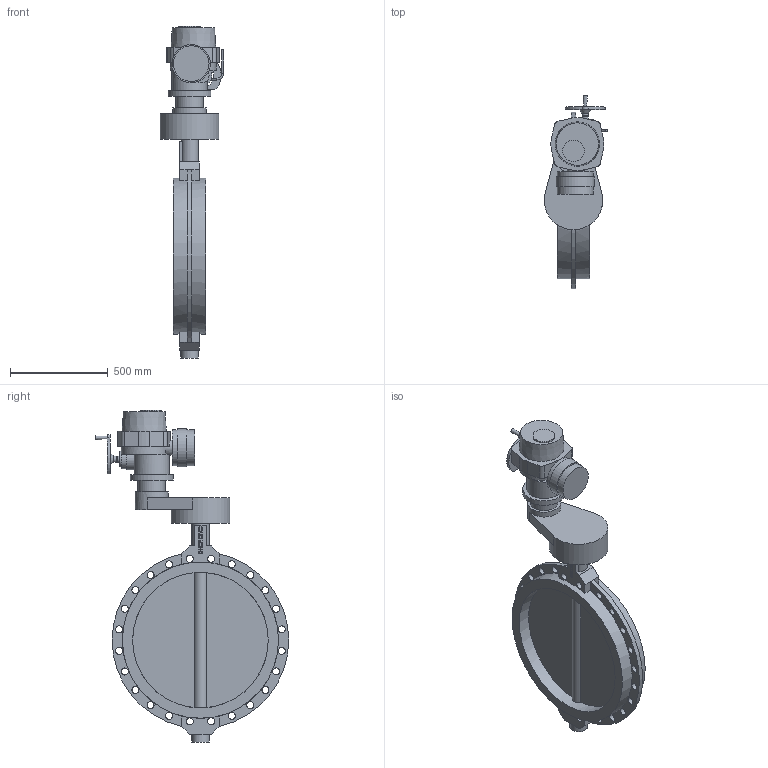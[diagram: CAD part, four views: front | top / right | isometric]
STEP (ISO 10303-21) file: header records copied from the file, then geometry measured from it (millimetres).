
FILE_DESCRIPTION(('STEP AP203'), '1');
FILE_NAME('青蜮铕 017W.ZS DN700+菹 QT.A500', '', ('UNSPECIFIED'), ('UNSPECIFIED'), 'ASCON STEP Converter 1.6', 'ASCON Math Kernel', '');
FILE_SCHEMA(('CONFIG_CONTROL_DESIGN'));
Length unit declared in the file: millimetre
Bounding box: 324.45 x 991.5 x 1701 mm (x, y, z)
Volume: 70687482.6 mm3; surface area: 3169752 mm2
Topology: 1 solids, 1 shells, 752 faces, 2074 edges, 1378 vertices
Faces by surface type: cylinder 522, plane 226, cone 3, torus 1
Full cylindrical faces by diameter (mm): 10 x2, 14 x8, 16 x1, 18 x8, 32 x2, 35 x1, 36 x24, 80 x2, 90 x2, 100 x1, 110 x1, 140 x1, 170 x1, 180 x1, 183 x2, 196 x1, 220 x1, 300 x1, 695 x2, 800 x2
Entity records: 31114 total; most frequent: CARTESIAN_POINT 4990, DIRECTION 4565, ORIENTED_EDGE 4012, EDGE_CURVE 2006, AXIS2_PLACEMENT_3D 1822, VERTEX_POINT 1378, CIRCLE 1069, EDGE_LOOP 928
